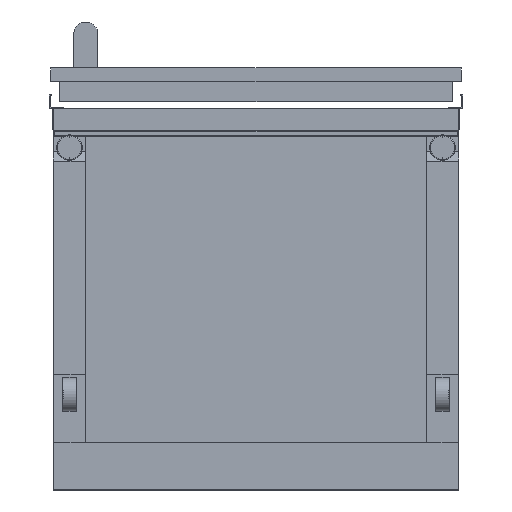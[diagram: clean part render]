
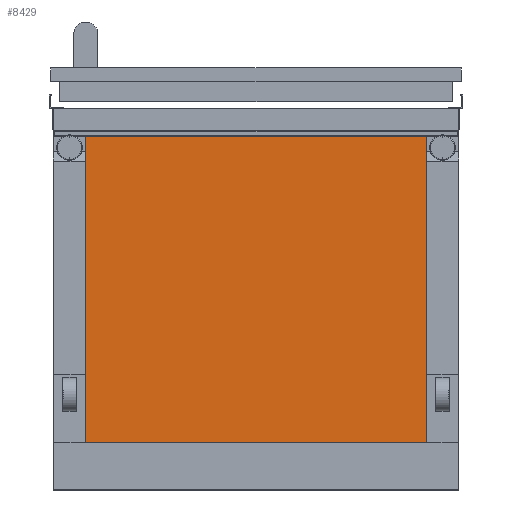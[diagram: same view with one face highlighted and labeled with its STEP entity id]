
A CAD part, front view. The second image highlights one B-rep face of the part: STEP entity #8429.
In plain terms, the highlighted planar face has unit normal (0, -1, 0).
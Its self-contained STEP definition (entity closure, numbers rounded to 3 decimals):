
#708 = ORIENTED_EDGE ( 'NONE', *, *, #9902, .T. ) ;
#962 = LINE ( 'NONE', #10262, #1291 ) ;
#1291 = VECTOR ( 'NONE', #1711, 1000. ) ;
#1711 = DIRECTION ( 'NONE',  ( 0., 0., 1. ) ) ;
#1782 = LINE ( 'NONE', #9429, #3121 ) ;
#1957 = CARTESIAN_POINT ( 'NONE',  ( 250.5, -1025.85, 240. ) ) ;
#2555 = DIRECTION ( 'NONE',  ( -1., 0., 0. ) ) ;
#3046 = LINE ( 'NONE', #3390, #11581 ) ;
#3121 = VECTOR ( 'NONE', #5219, 1000. ) ;
#3390 = CARTESIAN_POINT ( 'NONE',  ( -250.5, -1025.85, 240. ) ) ;
#4421 = EDGE_CURVE ( 'NONE', #12436, #10346, #13439, .T. ) ;
#4602 = AXIS2_PLACEMENT_3D ( 'NONE', #10131, #4762, #12240 ) ;
#4762 = DIRECTION ( 'NONE',  ( 0., 1., 0. ) ) ;
#4907 = ORIENTED_EDGE ( 'NONE', *, *, #13782, .F. ) ;
#5219 = DIRECTION ( 'NONE',  ( -1., 0., 0. ) ) ;
#7033 = CARTESIAN_POINT ( 'NONE',  ( -250.5, -1025.85, 240. ) ) ;
#8215 = CARTESIAN_POINT ( 'NONE',  ( 250.5, -1025.85, -280. ) ) ;
#8415 = FACE_OUTER_BOUND ( 'NONE', #8452, .T. ) ;
#8429 = ADVANCED_FACE ( 'NONE', ( #8415 ), #13361, .F. ) ;
#8452 = EDGE_LOOP ( 'NONE', ( #9665, #708, #4907, #10700 ) ) ;
#9429 = CARTESIAN_POINT ( 'NONE',  ( -297.5, -1025.85, -210.4 ) ) ;
#9665 = ORIENTED_EDGE ( 'NONE', *, *, #4421, .T. ) ;
#9902 = EDGE_CURVE ( 'NONE', #10346, #11208, #3046, .T. ) ;
#9932 = VECTOR ( 'NONE', #10487, 1000. ) ;
#10131 = CARTESIAN_POINT ( 'NONE',  ( -250.5, -1025.85, -280. ) ) ;
#10262 = CARTESIAN_POINT ( 'NONE',  ( -250.5, -1025.85, -280. ) ) ;
#10346 = VERTEX_POINT ( 'NONE', #1957 ) ;
#10487 = DIRECTION ( 'NONE',  ( 0., 0., 1. ) ) ;
#10700 = ORIENTED_EDGE ( 'NONE', *, *, #12165, .F. ) ;
#11208 = VERTEX_POINT ( 'NONE', #7033 ) ;
#11581 = VECTOR ( 'NONE', #2555, 1000. ) ;
#12028 = CARTESIAN_POINT ( 'NONE',  ( 250.5, -1025.85, -210.4 ) ) ;
#12165 = EDGE_CURVE ( 'NONE', #12436, #12826, #1782, .T. ) ;
#12240 = DIRECTION ( 'NONE',  ( 0., 0., 1. ) ) ;
#12436 = VERTEX_POINT ( 'NONE', #12028 ) ;
#12692 = CARTESIAN_POINT ( 'NONE',  ( -250.5, -1025.85, -210.4 ) ) ;
#12826 = VERTEX_POINT ( 'NONE', #12692 ) ;
#13361 = PLANE ( 'NONE',  #4602 ) ;
#13439 = LINE ( 'NONE', #8215, #9932 ) ;
#13782 = EDGE_CURVE ( 'NONE', #12826, #11208, #962, .T. ) ;
